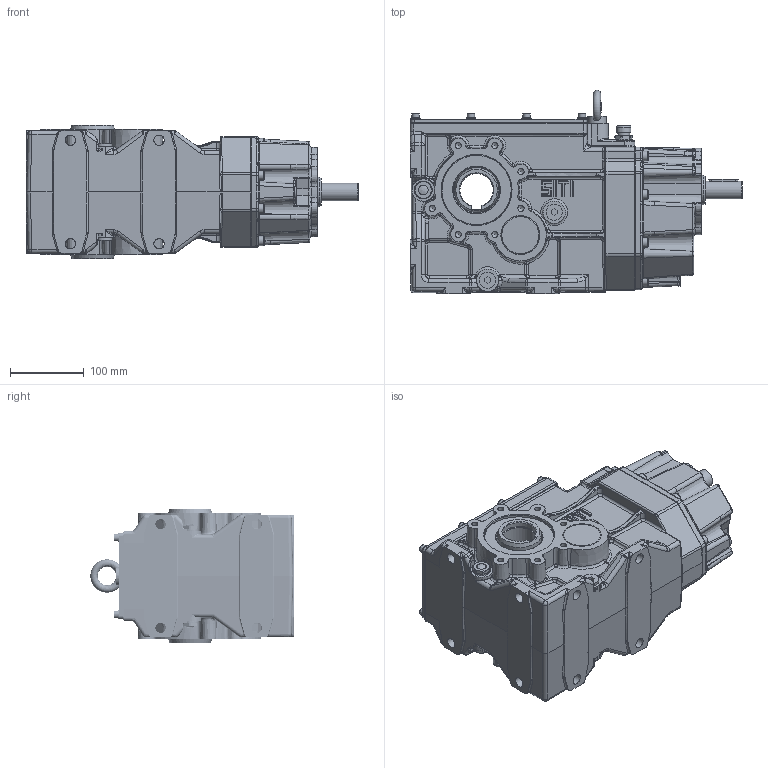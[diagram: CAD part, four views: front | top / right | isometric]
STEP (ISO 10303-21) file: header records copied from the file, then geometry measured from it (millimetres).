
FILE_DESCRIPTION((''),'2;1');
FILE_NAME('O:\Figurini\Figurini BH\3D\80\BH 80 C.stp','2013-05-29T12:39:10',('d.iannaccio'),(''),'Autodesk Inventor 2012','Autodesk Inventor 2012','');
FILE_SCHEMA(('AUTOMOTIVE_DESIGN { 1 0 10303 214 1 1 1 1 }'));
Length unit declared in the file: millimetre
Products named in the file (1): BH_80 C
Bounding box: 449 x 274.97 x 180 mm (x, y, z)
Volume: 3835925.6 mm3; surface area: 889833.9 mm2
Topology: 1 solids, 45 shells, 3442 faces, 8220 edges, 4846 vertices
Faces by surface type: cylinder 1050, plane 915, bspline 750, cone 323, torus 296, sphere 108
Full cylindrical faces by diameter (mm): 4.2 x1, 4.917 x8, 5 x1, 5.3 x1, 6 x16, 6.4 x8, 6.647 x16, 7 x8, 8 x14, 8.376 x15, 8.5 x2, 9 x8, 10 x16, 11.445 x1, 12.5 x8, 13 x8, 14 x8, 14.95 x7, 15.995 x1, 16 x2, 16.065 x1, 17 x1, 18 x1, 19 x1, 19.5 x1, 24 x1, 25 x1, 37.5 x2, 39.581 x1, 39.6 x1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
Entity records: 121909 total; most frequent: CARTESIAN_POINT 44916, DIRECTION 15085, ORIENTED_EDGE 14994, EDGE_CURVE 7497, AXIS2_PLACEMENT_3D 6286, VERTEX_POINT 4676, EDGE_LOOP 4047, FACE_OUTER_BOUND 3442
